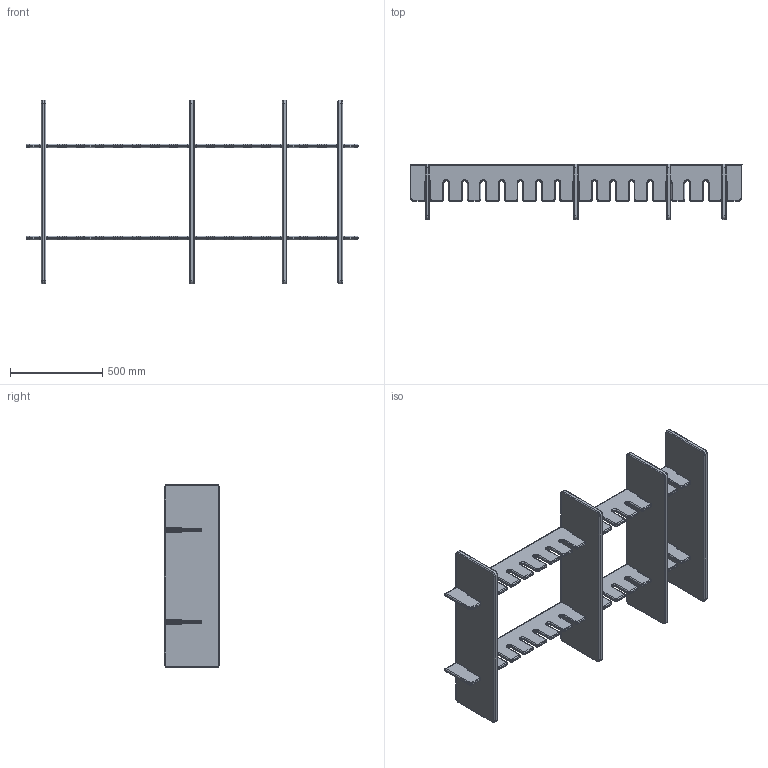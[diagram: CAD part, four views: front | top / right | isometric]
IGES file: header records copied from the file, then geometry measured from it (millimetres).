
Start section: Missler Software 3 rue Hermes, EUROPARC, 31520 Ramonville-Saint-Agne, France Tel   : +33 (0)5 61 00 03 00 Fax   : +33 (0)5 61 00 03 03 Email : sup.solid@topsolid.com
Global section: file name: H:\Dossier RNR\Production pédagogique\Conception etagere rapportée\Etagere brute\Etagere brute.igs; native system: TopSolid v613200 Missler Software; preprocessor: IGES preprocessor v100000; author: laurent.derue; date: 130328.141922; units: millimetre
Bounding box: 1800 x 300 x 996 mm (x, y, z)
Surface area: 4049411.1 mm2 (no closed solid volume)
Topology: 0 solids, 0 shells, 1026 faces, 6764 edges, 6770 vertices
Faces by surface type: bspline 1026
